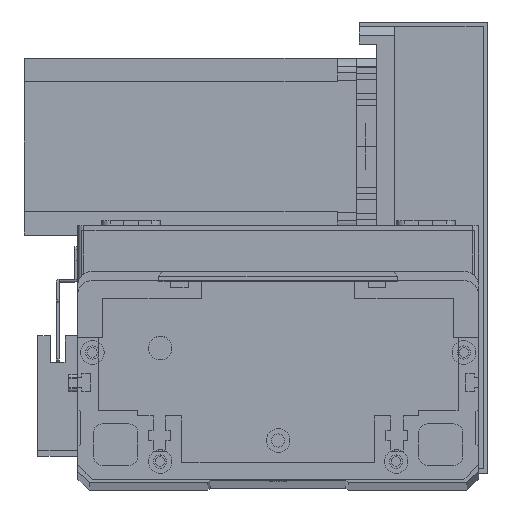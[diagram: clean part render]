
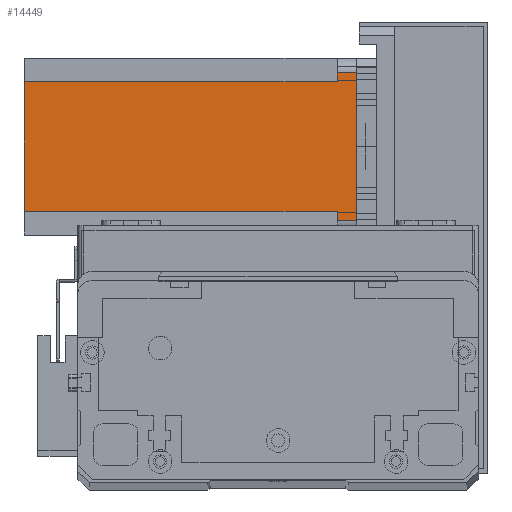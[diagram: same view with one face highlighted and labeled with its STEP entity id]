
A CAD part, top view. The second image highlights one B-rep face of the part: STEP entity #14449.
In plain terms, the highlighted planar face has unit normal (0, 0, 1) as drawn and (0, 1, 0) by its records, which use the part's own axes.
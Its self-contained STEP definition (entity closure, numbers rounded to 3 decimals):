
#394 = CARTESIAN_POINT ( 'NONE',  ( 52., 60., -6.5 ) ) ;
#779 = DIRECTION ( 'NONE',  ( 0., 0., -1. ) ) ;
#851 = CARTESIAN_POINT ( 'NONE',  ( 55., 60., -112.5 ) ) ;
#856 = LINE ( 'NONE', #6369, #14182 ) ;
#1427 = CARTESIAN_POINT ( 'NONE',  ( 5., 60., 0. ) ) ;
#1960 = DIRECTION ( 'NONE',  ( 1., 0., 0. ) ) ;
#2743 = ORIENTED_EDGE ( 'NONE', *, *, #6101, .F. ) ;
#2898 = VERTEX_POINT ( 'NONE', #29080 ) ;
#4568 = FACE_OUTER_BOUND ( 'NONE', #18771, .T. ) ;
#5061 = EDGE_CURVE ( 'NONE', #10063, #20399, #5141, .T. ) ;
#5141 = LINE ( 'NONE', #851, #17590 ) ;
#5251 = EDGE_CURVE ( 'NONE', #10906, #20399, #29534, .T. ) ;
#5665 = DIRECTION ( 'NONE',  ( -1., 0., 0. ) ) ;
#6101 = EDGE_CURVE ( 'NONE', #27776, #10906, #7373, .T. ) ;
#6369 = CARTESIAN_POINT ( 'NONE',  ( 5., 60., -112.5 ) ) ;
#6400 = EDGE_CURVE ( 'NONE', #27776, #2898, #8882, .T. ) ;
#6524 = DIRECTION ( 'NONE',  ( 0., 0., 1. ) ) ;
#6565 = VECTOR ( 'NONE', #14213, 1000. ) ;
#6668 = EDGE_CURVE ( 'NONE', #20431, #2898, #8500, .T. ) ;
#6989 = EDGE_CURVE ( 'NONE', #20431, #10612, #18834, .T. ) ;
#7373 = LINE ( 'NONE', #15915, #21266 ) ;
#7452 = EDGE_CURVE ( 'NONE', #10612, #29590, #856, .T. ) ;
#7779 = ORIENTED_EDGE ( 'NONE', *, *, #6400, .T. ) ;
#8500 = LINE ( 'NONE', #24672, #15326 ) ;
#8882 = LINE ( 'NONE', #13936, #14244 ) ;
#10063 = VERTEX_POINT ( 'NONE', #21228 ) ;
#10612 = VERTEX_POINT ( 'NONE', #12810 ) ;
#10906 = VERTEX_POINT ( 'NONE', #17647 ) ;
#11785 = ORIENTED_EDGE ( 'NONE', *, *, #6989, .T. ) ;
#12135 = ORIENTED_EDGE ( 'NONE', *, *, #6668, .F. ) ;
#12810 = CARTESIAN_POINT ( 'NONE',  ( 5., 60., -6.5 ) ) ;
#13251 = LINE ( 'NONE', #28334, #25117 ) ;
#13508 = CARTESIAN_POINT ( 'NONE',  ( 8., 60., -6.5 ) ) ;
#13839 = DIRECTION ( 'NONE',  ( -1., 0., 0. ) ) ;
#13936 = CARTESIAN_POINT ( 'NONE',  ( 0., 60., -112.5 ) ) ;
#14182 = VECTOR ( 'NONE', #6524, 1000. ) ;
#14213 = DIRECTION ( 'NONE',  ( -1., 0., 0. ) ) ;
#14244 = VECTOR ( 'NONE', #13839, 1000. ) ;
#14449 = ADVANCED_FACE ( 'NONE', ( #4568 ), #22099, .T. ) ;
#15326 = VECTOR ( 'NONE', #24495, 1000. ) ;
#15372 = CARTESIAN_POINT ( 'NONE',  ( 52., 60., -112.5 ) ) ;
#15662 = CARTESIAN_POINT ( 'NONE',  ( 8., 60., -6.5 ) ) ;
#15915 = CARTESIAN_POINT ( 'NONE',  ( 52., 60., -112.5 ) ) ;
#16257 = DIRECTION ( 'NONE',  ( 0., 0., 1. ) ) ;
#17590 = VECTOR ( 'NONE', #779, 1000. ) ;
#17647 = CARTESIAN_POINT ( 'NONE',  ( 52., 60., -6.5 ) ) ;
#18007 = ORIENTED_EDGE ( 'NONE', *, *, #27694, .F. ) ;
#18771 = EDGE_LOOP ( 'NONE', ( #18007, #27671, #28024, #2743, #7779, #12135, #11785, #27851 ) ) ;
#18834 = LINE ( 'NONE', #13508, #6565 ) ;
#19972 = CARTESIAN_POINT ( 'NONE',  ( 55., 60., -6.5 ) ) ;
#20399 = VERTEX_POINT ( 'NONE', #19972 ) ;
#20431 = VERTEX_POINT ( 'NONE', #15662 ) ;
#21228 = CARTESIAN_POINT ( 'NONE',  ( 55., 60., 0. ) ) ;
#21266 = VECTOR ( 'NONE', #16257, 1000. ) ;
#22036 = DIRECTION ( 'NONE',  ( 0., 0., 1. ) ) ;
#22060 = DIRECTION ( 'NONE',  ( 0., 1., 0. ) ) ;
#22099 = PLANE ( 'NONE',  #23512 ) ;
#22186 = CARTESIAN_POINT ( 'NONE',  ( 0., 60., -112.5 ) ) ;
#23512 = AXIS2_PLACEMENT_3D ( 'NONE', #22186, #22060, #22036 ) ;
#24495 = DIRECTION ( 'NONE',  ( 0., 0., -1. ) ) ;
#24672 = CARTESIAN_POINT ( 'NONE',  ( 8., 60., -112.5 ) ) ;
#25117 = VECTOR ( 'NONE', #5665, 1000. ) ;
#27671 = ORIENTED_EDGE ( 'NONE', *, *, #5061, .T. ) ;
#27694 = EDGE_CURVE ( 'NONE', #10063, #29590, #13251, .T. ) ;
#27776 = VERTEX_POINT ( 'NONE', #15372 ) ;
#27851 = ORIENTED_EDGE ( 'NONE', *, *, #7452, .T. ) ;
#28024 = ORIENTED_EDGE ( 'NONE', *, *, #5251, .F. ) ;
#28334 = CARTESIAN_POINT ( 'NONE',  ( 0., 60., 0. ) ) ;
#28884 = VECTOR ( 'NONE', #1960, 1000. ) ;
#29080 = CARTESIAN_POINT ( 'NONE',  ( 8., 60., -112.5 ) ) ;
#29534 = LINE ( 'NONE', #394, #28884 ) ;
#29590 = VERTEX_POINT ( 'NONE', #1427 ) ;
